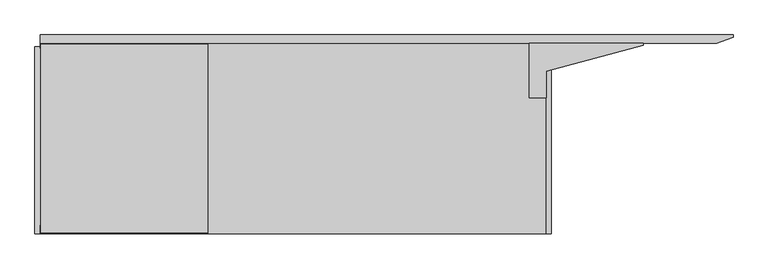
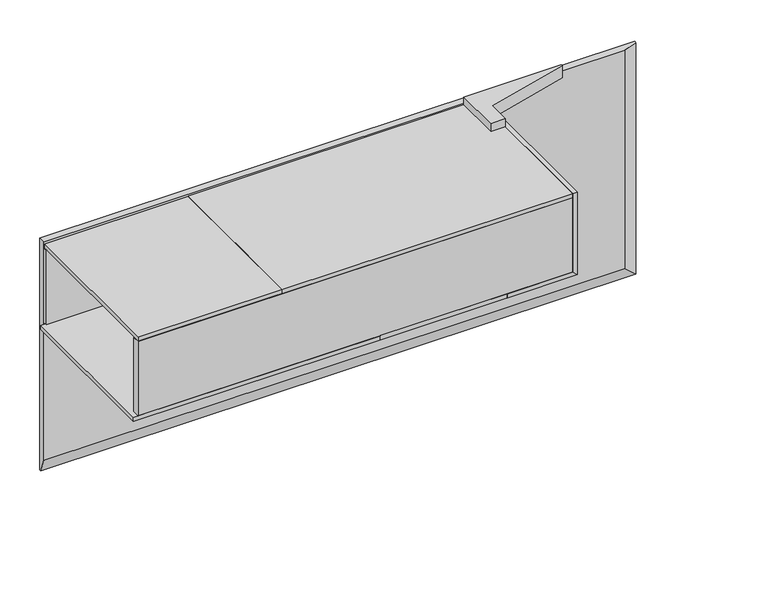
"""IFC4 building model written with IfcOpenShell, lengths in millimetres: proxy geometry, VIEWLINE^TABLE 2_LEFT CORNER TOP-ASSEMBLY."""

from ifc_helpers import new_model, si_unit, frame, origin, place, context, project, spatial, polyline, outline, extrude, faceted_brep, source, transform, mapped, element, save


def generic_models_40ff8c30(model_context):
    return source(origin(), model_context, "Body", "SolidModel", [
        extrude(outline(polyline([(1055.6875, -12.7), (1604.9625, -12.7), (1604.9625, -711.2), (1055.6875, -711.2), (1055.6875, -12.7)])), frame((0.0, 0.0, -387.35), z_axis=(0.0, 0.0, 1.0), x_axis=(1.0, 0.0, 0.0)), (0.0, 0.0, 1.0), 19.05),
        extrude(outline(polyline([(1828.8, 0.0), (2254.25, 0.0), (2254.25, -6.35), (1892.3, -103.3342102), (1892.3, -203.2), (1828.8, -203.2), (1828.8, 0.0)])), frame((0.0, 0.0, -27.94), z_axis=(0.0, 0.0, 1.0), x_axis=(1.0, 0.0, 0.0)), (0.0, 0.0, 1.0), 57.15),
        extrude(outline(polyline([(1054.1, -12.7), (1054.1, -711.2), (-20.0025, -711.2), (-20.0025, -12.7), (1054.1, -12.7)])), frame((0.0, 0.0, -387.35), z_axis=(0.0, 0.0, 1.0), x_axis=(1.0, 0.0, 0.0)), (0.0, 0.0, 1.0), 19.05),
        extrude(outline(polyline([(-368.3, 1892.3), (-387.35, 1911.35), (-6.35, 1911.35), (-6.35, 1892.3), (-368.3, 1892.3)])), frame((0.0, -711.2, 0.0), z_axis=(0.0, 1.0, 0.0), x_axis=(0.0, 0.0, 1.0)), (0.0, 0.0, 1.0), 711.2),
        extrude(outline(polyline([(0.0, 0.0), (1892.3, 0.0), (1892.3, -19.05), (0.0, -19.05), (0.0, 0.0)])), frame((0.0, 0.0, -368.3), z_axis=(0.0, 0.0, 1.0), x_axis=(1.0, 0.0, 0.0)), (0.0, 0.0, 1.0), 342.9),
        faceted_brep([(1892.3, 0.0, -303.5661024), (1892.3, -203.2, -303.5661024), (1892.3, -203.2, -367.0661024), (1892.3, -102.7684, -367.0661024), (1892.3, -102.7684, -368.3), (1892.3, 0.0, -368.3), (1889.76, -203.2, -303.5661024), (1889.76, 0.0, -303.5661024), (1889.76, 0.0, -446.5823051), (1889.76, -88.6995146, -446.5823051), (1889.76, -102.7684, -372.3278976), (1889.76, -102.7684, -367.0661024), (1889.76, -203.2, -367.0661024), (2147.4933507, 0.0, -623.4933507), (2107.0821981, 0.0, -663.9045032), (1893.0439488, -102.7684, -369.0439488), (2147.4933507, -6.3480098, -623.4933507), (2107.0821981, -6.3480098, -663.9045032)], [[[0, 1, 2, 3, 4, 5]], [[6, 7, 8, 9, 10, 11, 12]], [[5, 13, 14, 8, 7, 0]], [[5, 4, 15, 16, 13]], [[17, 9, 8, 14]], [[11, 10, 15, 4, 3]], [[17, 16, 15, 10, 9]], [[14, 13, 16, 17]], [[2, 12, 11, 3]], [[12, 2, 1, 6]], [[1, 0, 7, 6]]]),
        extrude(outline(polyline([(-387.35, 1606.55), (-387.35, 1911.35), (-368.3, 1892.3), (-368.3, 1606.55), (-387.35, 1606.55)])), frame((0.0, -711.2, 0.0), z_axis=(0.0, 1.0, 0.0), x_axis=(0.0, 0.0, 1.0)), (0.0, 0.0, 1.0), 711.2),
        extrude(outline(polyline([(1073.15, -679.45), (1054.1, -679.45), (1054.1, -19.05), (1073.15, -19.05), (1073.15, -679.45)])), frame((0.0, 0.0, -368.3), z_axis=(0.0, 0.0, 1.0), x_axis=(1.0, 0.0, 0.0)), (0.0, 0.0, 1.0), 342.9),
        extrude(outline(polyline([(628.65, -711.2), (628.65, 0.0), (1892.3, 0.0), (1892.3, -711.2), (628.65, -711.2)])), frame((0.0, 0.0, -25.4), z_axis=(0.0, 0.0, 1.0), x_axis=(1.0, 0.0, 0.0)), (0.0, 0.0, 1.0), 19.05),
        extrude(outline(polyline([(1265.2375, 19.05), (1265.2375, 31.75), (1462.0875, 31.75), (1462.0875, 19.05), (1265.2375, 19.05)])), frame((0.0, 0.0, -256.1941511), z_axis=(0.0, 0.0, 1.0), x_axis=(1.0, 0.0, 0.0)), (0.0, 0.0, 1.0), 133.35),
        extrude(outline(polyline([(626.26875, -708.81875), (2.38125, -708.81875), (2.38125, -2.38125), (626.26875, -2.38125), (626.26875, -708.81875)])), frame((0.0, 0.0, -25.4), z_axis=(0.0, 0.0, 1.0), x_axis=(1.0, 0.0, 0.0)), (0.0, 0.0, 1.0), 19.05),
        faceted_brep([(2590.8, 31.75, -1066.8), (0.0, 31.75, -1066.8), (0.0, 31.75, 0.0), (2590.8, 31.75, 0.0), (0.0, 0.0, -1005.7373144), (2529.7373144, 0.0, -1005.7373144), (2529.7373144, 0.0, 0.0), (0.0, 0.0, 0.0), (2590.8, 22.225, -1066.8), (0.0, 22.225, -1066.8), (2590.8, 22.225, 0.0)], [[[0, 1, 2, 3]], [[4, 5, 6, 7]], [[1, 0, 8, 9]], [[5, 8, 10, 6]], [[0, 3, 10, 8]], [[9, 8, 5, 4]], [[9, 4, 7, 2, 1]], [[6, 10, 3, 2, 7]]]),
        extrude(outline(polyline([(0.0, -304.8), (0.0, -730.25), (-6.35, -730.25), (-103.3342102, -368.3), (-203.2, -368.3), (-203.2, -304.8), (0.0, -304.8)])), frame((1051.56, 0.0, 0.0), z_axis=(1.0, 0.0, 0.0), x_axis=(0.0, 1.0, 0.0)), (0.0, 0.0, 1.0), 57.15),
        extrude(outline(polyline([(1892.3, -711.2), (0.0, -711.2), (0.0, -679.45), (1892.3, -679.45), (1892.3, -711.2)])), frame((0.0, 0.0, -368.3), z_axis=(0.0, 0.0, 1.0), x_axis=(1.0, 0.0, 0.0)), (0.0, 0.0, 1.0), 342.9),
    ])


if __name__ == "__main__":
    model = new_model("IFC4")
    model_context = context("Model", 3, world=origin())
    ifc_project = project(units=[si_unit("LENGTHUNIT", "METRE", prefix="MILLI")], contexts=[model_context])
    site = spatial("IfcSite", under=ifc_project)
    building = spatial("IfcBuilding", under=site)
    placement = place(None, origin())
    generic_models_shape = generic_models_40ff8c30(model_context)
    element("IfcBuildingElementProxy", 1, Name="VIEWLINE^TABLE 2_LEFT CORNER TOP-ASSEMBLY", ObjectType="VIEWLINE^TABLE 2_LEFT CORNER TOP-ASSEMBLY", at=placement, inside=building, context=model_context, shape_type="MappedRepresentation", body=[
        mapped(generic_models_shape, transform((0.0, 0.0, 0.0), x_axis=(1.0, 0.0, 0.0), y_axis=(0.0, 1.0, 0.0), z_axis=(0.0, 0.0, 1.0))),
    ])
    save(model, "model.ifc")
